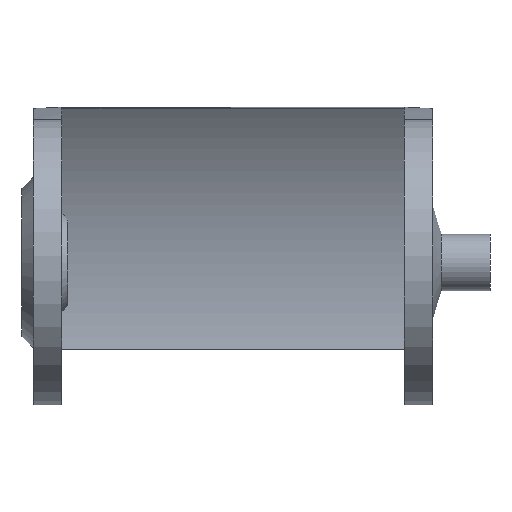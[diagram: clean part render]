
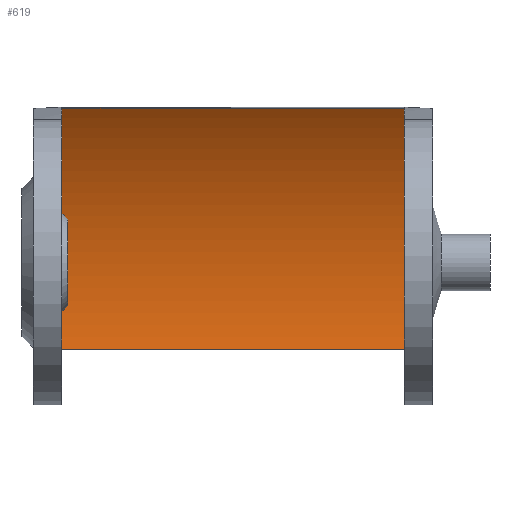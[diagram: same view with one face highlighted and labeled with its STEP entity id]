
A CAD part, front view. The second image highlights one B-rep face of the part: STEP entity #619.
In plain terms, the highlighted cylindrical face has radius 58.298 mm (diameter 116.597 mm), a partial arc.
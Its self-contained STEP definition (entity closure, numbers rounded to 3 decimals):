
#56=CYLINDRICAL_SURFACE('',#711,58.299);
#92=FACE_OUTER_BOUND('',#139,.T.);
#139=EDGE_LOOP('',(#575,#576,#577,#578));
#174=LINE('',#1044,#217);
#176=LINE('',#1050,#219);
#217=VECTOR('',#846,10.);
#219=VECTOR('',#854,10.);
#245=CIRCLE('',#668,58.299);
#258=CIRCLE('',#688,58.299);
#305=VERTEX_POINT('',#1015);
#306=VERTEX_POINT('',#1017);
#314=VERTEX_POINT('',#1042);
#315=VERTEX_POINT('',#1049);
#374=EDGE_CURVE('',#305,#306,#245,.T.);
#388=EDGE_CURVE('',#305,#314,#174,.T.);
#391=EDGE_CURVE('',#306,#315,#176,.T.);
#393=EDGE_CURVE('',#315,#314,#258,.T.);
#575=ORIENTED_EDGE('',*,*,#374,.F.);
#576=ORIENTED_EDGE('',*,*,#388,.T.);
#577=ORIENTED_EDGE('',*,*,#393,.F.);
#578=ORIENTED_EDGE('',*,*,#391,.F.);
#619=ADVANCED_FACE('',(#92),#56,.F.);
#668=AXIS2_PLACEMENT_3D('',#1018,#813,#814);
#688=AXIS2_PLACEMENT_3D('',#1053,#859,#860);
#711=AXIS2_PLACEMENT_3D('',#1090,#911,#912);
#813=DIRECTION('center_axis',(1.,0.,0.));
#814=DIRECTION('ref_axis',(0.,0.993,-0.119));
#846=DIRECTION('',(1.,0.,0.));
#854=DIRECTION('',(1.,0.,0.));
#859=DIRECTION('center_axis',(-1.,0.,0.));
#860=DIRECTION('ref_axis',(0.,0.993,-0.119));
#911=DIRECTION('center_axis',(1.,0.,0.));
#912=DIRECTION('ref_axis',(0.,0.993,-0.119));
#1015=CARTESIAN_POINT('',(-26.5,254.847,-7.275));
#1017=CARTESIAN_POINT('',(-26.5,243.324,34.965));
#1018=CARTESIAN_POINT('Origin',(-26.5,196.958,-0.375));
#1042=CARTESIAN_POINT('',(33.5,254.847,-7.275));
#1044=CARTESIAN_POINT('',(-26.5,254.847,-7.275));
#1049=CARTESIAN_POINT('',(33.5,243.324,34.965));
#1050=CARTESIAN_POINT('',(-26.5,243.324,34.965));
#1053=CARTESIAN_POINT('Origin',(33.5,196.958,-0.375));
#1090=CARTESIAN_POINT('Origin',(-26.5,196.958,-0.375));
